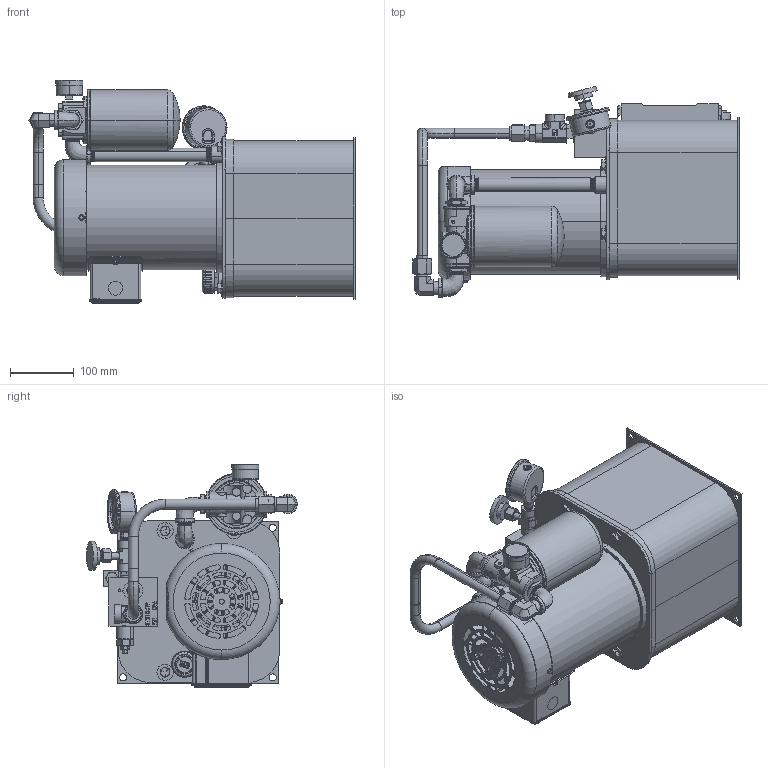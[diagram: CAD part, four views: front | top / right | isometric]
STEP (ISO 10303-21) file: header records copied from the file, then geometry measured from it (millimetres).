
FILE_DESCRIPTION (( 'STEP AP214' ), '1' );
FILE_NAME ('T2V-05-X-NN-F1-059c.STEP', '2021-08-28T16:55:30', ( '' ), ( '' ), 'SwSTEP 2.0', 'SolidWorks 2020', '' );
FILE_SCHEMA (( 'AUTOMOTIVE_DESIGN' ));
Length unit declared in the file: inch
Products named in the file (1): T2V-05-X-NN-F1-059c
Bounding box: 512.44 x 331.66 x 351.82 mm (x, y, z)
Surface area: 974985.3 mm2 (no closed solid volume)
Topology: 0 solids, 124 shells, 1823 faces, 7741 edges, 5877 vertices
Faces by surface type: plane 618, cylinder 541, cone 346, bspline 186, torus 118, sphere 14
Entity records: 157867 total; most frequent: CARTESIAN_POINT 75443, ORIENTED_EDGE 11357, DIRECTION 11045, EDGE_CURVE 7739, VERTEX_POINT 5877, AXIS2_PLACEMENT_3D 3849, LINE 3347, VECTOR 3347
